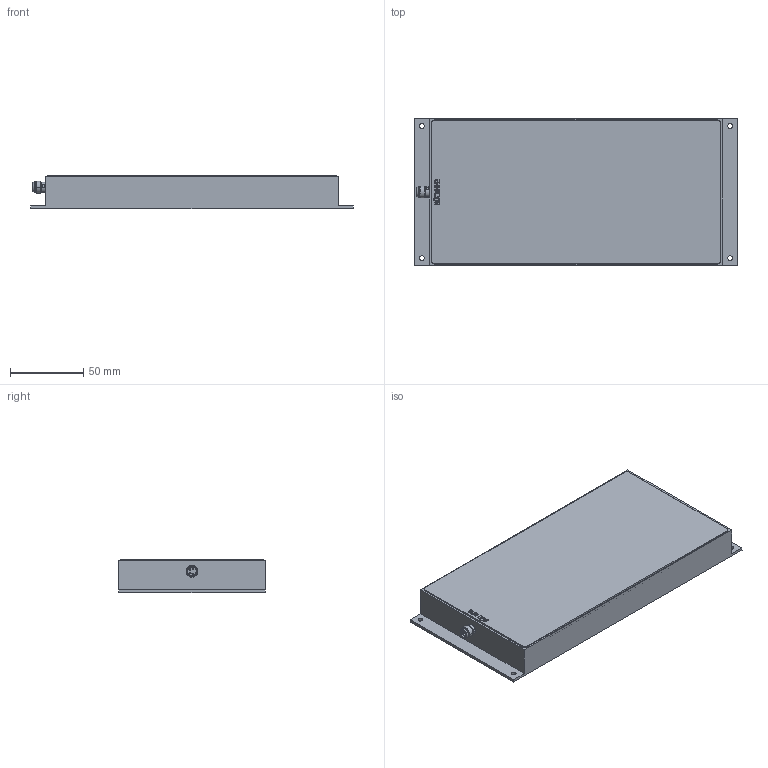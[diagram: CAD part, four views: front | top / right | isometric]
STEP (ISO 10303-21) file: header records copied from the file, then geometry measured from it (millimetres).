
FILE_DESCRIPTION(('STEP AP214'),'1');
FILE_NAME('Z:/Projekte Hr. Wünsch/SpaceClaim/HL-XL/HL-XL-komplett-Kundendatei.stp','2013-09-25T09:59:15',(' '),(' '),'Spatial InterOp 3D',' ',' ');
FILE_SCHEMA(('automotive_design'));
Length unit declared in the file: metre
Products named in the file (1): 1
Bounding box: 220 x 100 x 22.55 mm (x, y, z)
Volume: 454080 mm3; surface area: 60512 mm2
Topology: 1 solids, 3 shells, 257 faces, 661 edges, 430 vertices
Faces by surface type: plane 109, cylinder 86, extrusion 48, cone 10, sphere 4
Entity records: 10768 total; most frequent: CARTESIAN_POINT 2567, ORIENTED_EDGE 1306, DIRECTION 1148, EDGE_CURVE 653, VERTEX_POINT 430, VECTOR 392, AXIS2_PLACEMENT_3D 378, LINE 344
